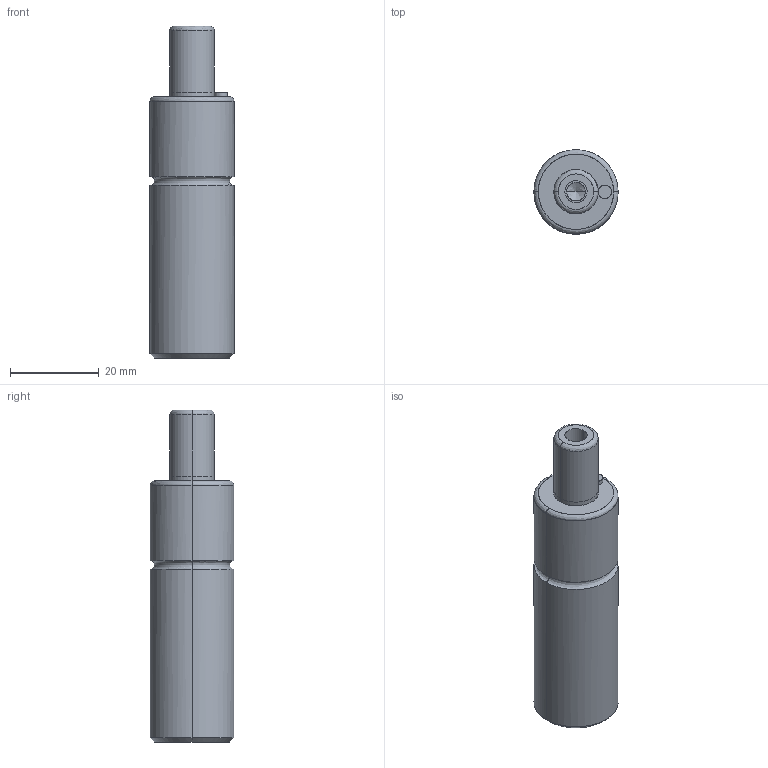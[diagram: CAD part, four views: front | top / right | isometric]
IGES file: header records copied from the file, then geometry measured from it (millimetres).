
Global section: file name: E:\UnigraphicsGraphicData\MISUMI_PRESS-PARTS\IGES\3d_mgsa19-15_04552_r00.igs; native system: NX V5.0; preprocessor: UGS NX IGES V5.0; author: MISUMI; date: 20110105.161431; units: millimetre
Bounding box: 19 x 18.95 x 75 mm (x, y, z)
Surface area: 4867.6 mm2 (no closed solid volume)
Topology: 0 solids, 0 shells, 36 faces, 216 edges, 211 vertices
Faces by surface type: bspline 36
